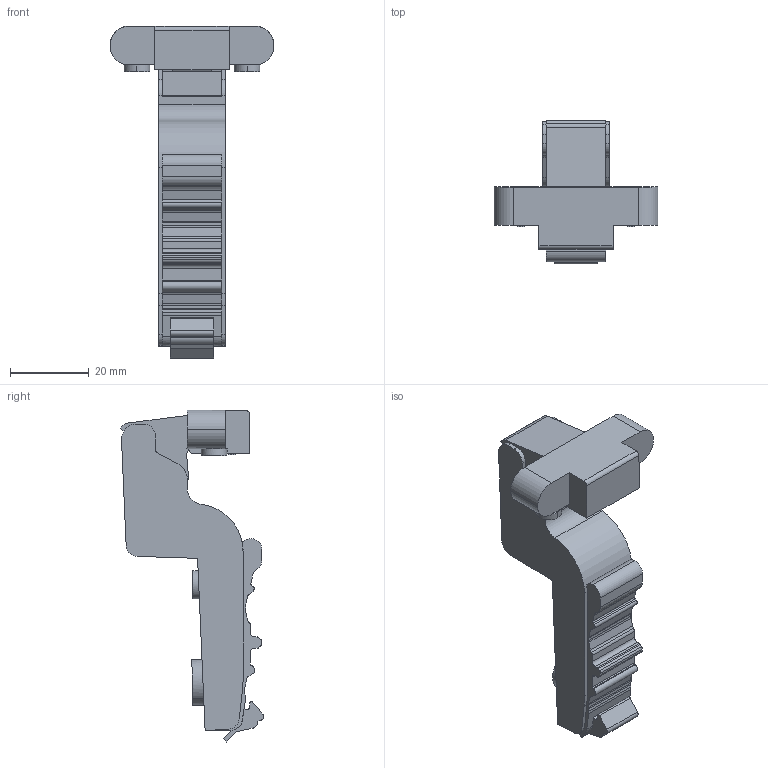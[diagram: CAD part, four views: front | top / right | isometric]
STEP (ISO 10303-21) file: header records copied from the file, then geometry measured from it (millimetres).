
FILE_DESCRIPTION (( 'STEP AP203' ), '1' );
FILE_NAME ('C82C678FA-DTC 3D close.STEP', '2024-09-09T06:41:03', ( '微软用户' ), ( '微软中国' ), 'SwSTEP 2.0', 'SolidWorks 2021', '' );
FILE_SCHEMA (( 'CONFIG_CONTROL_DESIGN' ));
Length unit declared in the file: millimetre
Products named in the file (1): C82C678FA-DTC 3D close
Bounding box: 41.6 x 36.41 x 84.32 mm (x, y, z)
Volume: 27505.5 mm3; surface area: 8593.7 mm2
Topology: 1 solids, 1 shells, 148 faces, 426 edges, 283 vertices
Faces by surface type: plane 80, cylinder 68
Entity records: 4971 total; most frequent: CARTESIAN_POINT 888, DIRECTION 858, ORIENTED_EDGE 852, EDGE_CURVE 426, AXIS2_PLACEMENT_3D 293, VERTEX_POINT 283, LINE 272, VECTOR 272
